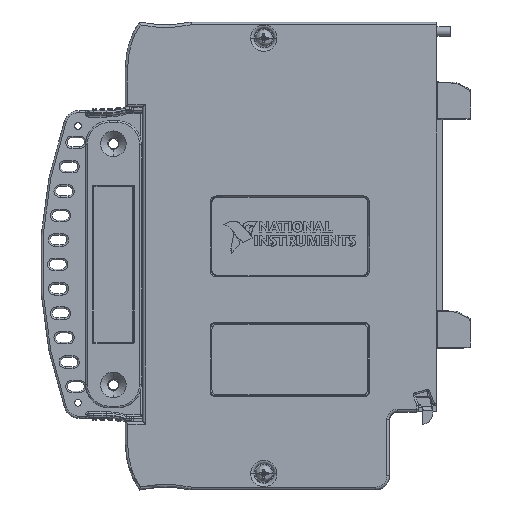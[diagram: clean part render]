
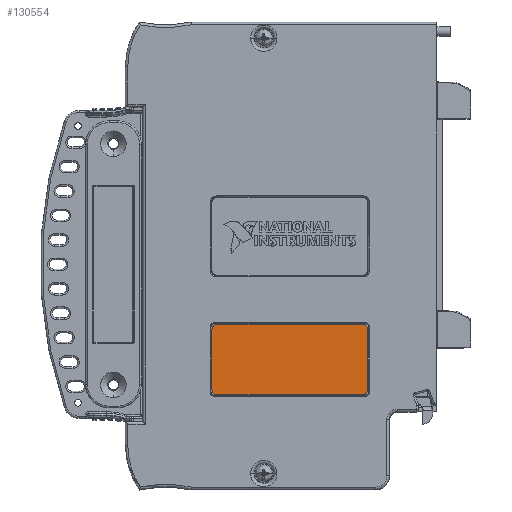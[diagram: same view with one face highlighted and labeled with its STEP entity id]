
A CAD part, top view. The second image highlights one B-rep face of the part: STEP entity #130554.
In plain terms, the highlighted planar face has unit normal (0, 0, 1).
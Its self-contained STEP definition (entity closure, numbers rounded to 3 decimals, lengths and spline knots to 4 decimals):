
#52120=CARTESIAN_POINT('',(-0.828,-1.7225,0.783));
#52121=DIRECTION('',(0.,0.,-1.));
#52122=DIRECTION('',(0.,-1.,0.));
#52123=AXIS2_PLACEMENT_3D('',#52120,#52121,#52122);
#52125=DIRECTION('',(0.,1.,0.));
#52126=VECTOR('',#52125,0.782);
#52127=CARTESIAN_POINT('',(-0.89,-1.7225,0.783));
#52128=LINE('',#52127,#52126);
#52129=CARTESIAN_POINT('',(-0.828,-0.9405,0.783));
#52130=DIRECTION('',(0.,0.,-1.));
#52131=DIRECTION('',(-1.,0.,0.));
#52132=AXIS2_PLACEMENT_3D('',#52129,#52130,#52131);
#52134=DIRECTION('',(1.,0.,0.));
#52135=VECTOR('',#52134,1.876);
#52136=CARTESIAN_POINT('',(-0.828,-0.8785,0.783));
#52137=LINE('',#52136,#52135);
#52138=CARTESIAN_POINT('',(1.048,-0.9405,0.783));
#52139=DIRECTION('',(0.,0.,-1.));
#52140=DIRECTION('',(0.,1.,0.));
#52141=AXIS2_PLACEMENT_3D('',#52138,#52139,#52140);
#52143=DIRECTION('',(0.,-1.,0.));
#52144=VECTOR('',#52143,0.782);
#52145=CARTESIAN_POINT('',(1.11,-0.9405,0.783));
#52146=LINE('',#52145,#52144);
#52147=CARTESIAN_POINT('',(1.048,-1.7225,0.783));
#52148=DIRECTION('',(0.,0.,-1.));
#52149=DIRECTION('',(1.,0.,0.));
#52150=AXIS2_PLACEMENT_3D('',#52147,#52148,#52149);
#52152=DIRECTION('',(-1.,0.,0.));
#52153=VECTOR('',#52152,1.876);
#52154=CARTESIAN_POINT('',(1.048,-1.7845,0.783));
#52155=LINE('',#52154,#52153);
#65003=CARTESIAN_POINT('',(-0.828,-1.7845,0.783));
#65004=CARTESIAN_POINT('',(-0.89,-1.7225,0.783));
#65005=VERTEX_POINT('',#65003);
#65006=VERTEX_POINT('',#65004);
#65007=CARTESIAN_POINT('',(-0.89,-0.9405,0.783));
#65008=VERTEX_POINT('',#65007);
#65009=CARTESIAN_POINT('',(-0.828,-0.8785,0.783));
#65010=VERTEX_POINT('',#65009);
#65011=CARTESIAN_POINT('',(1.048,-0.8785,0.783));
#65012=VERTEX_POINT('',#65011);
#65013=CARTESIAN_POINT('',(1.11,-0.9405,0.783));
#65014=VERTEX_POINT('',#65013);
#65015=CARTESIAN_POINT('',(1.11,-1.7225,0.783));
#65016=VERTEX_POINT('',#65015);
#65017=CARTESIAN_POINT('',(1.048,-1.7845,0.783));
#65018=VERTEX_POINT('',#65017);
#130539=CARTESIAN_POINT('',(0.11,-1.3315,0.783));
#130540=DIRECTION('',(0.,0.,-1.));
#130541=DIRECTION('',(1.,0.,0.));
#130542=AXIS2_PLACEMENT_3D('',#130539,#130540,#130541);
#130543=PLANE('',#130542);
#130544=ORIENTED_EDGE('',*,*,#130435,.T.);
#130545=ORIENTED_EDGE('',*,*,#130450,.T.);
#130546=ORIENTED_EDGE('',*,*,#130464,.T.);
#130547=ORIENTED_EDGE('',*,*,#130478,.T.);
#130548=ORIENTED_EDGE('',*,*,#130492,.T.);
#130549=ORIENTED_EDGE('',*,*,#130506,.T.);
#130550=ORIENTED_EDGE('',*,*,#130520,.T.);
#130551=ORIENTED_EDGE('',*,*,#130533,.T.);
#130552=EDGE_LOOP('',(#130544,#130545,#130546,#130547,#130548,#130549,#130550,
#130551));
#130553=FACE_OUTER_BOUND('',#130552,.F.);
#130554=ADVANCED_FACE('',(#130553),#130543,.F.);
#52124=CIRCLE('',#52123,0.062);
#52133=CIRCLE('',#52132,0.062);
#52142=CIRCLE('',#52141,0.062);
#52151=CIRCLE('',#52150,0.062);
#130435=EDGE_CURVE('',#65005,#65006,#52124,.T.);
#130450=EDGE_CURVE('',#65006,#65008,#52128,.T.);
#130464=EDGE_CURVE('',#65008,#65010,#52133,.T.);
#130478=EDGE_CURVE('',#65010,#65012,#52137,.T.);
#130492=EDGE_CURVE('',#65012,#65014,#52142,.T.);
#130506=EDGE_CURVE('',#65014,#65016,#52146,.T.);
#130520=EDGE_CURVE('',#65016,#65018,#52151,.T.);
#130533=EDGE_CURVE('',#65018,#65005,#52155,.T.);
